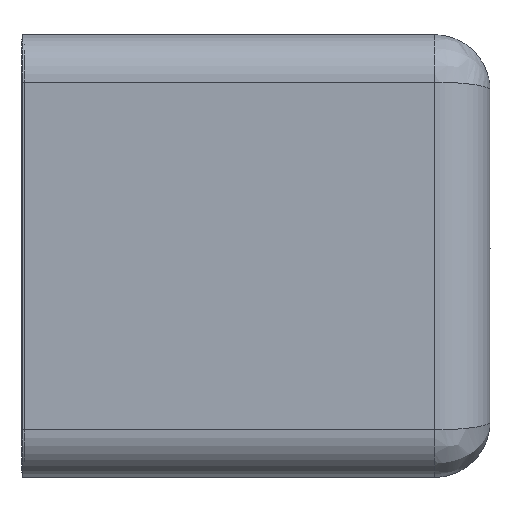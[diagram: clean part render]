
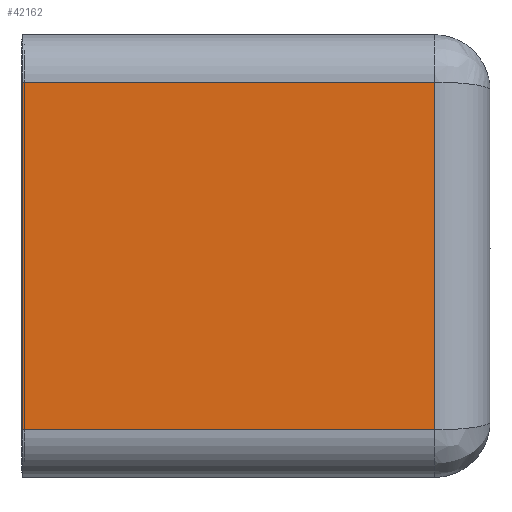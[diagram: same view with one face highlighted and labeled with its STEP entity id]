
A CAD part, left-side view. The second image highlights one B-rep face of the part: STEP entity #42162.
In plain terms, the highlighted planar face has unit normal (-1, 0, 0).
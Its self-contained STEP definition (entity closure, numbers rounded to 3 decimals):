
#1747 = ORIENTED_EDGE ( 'NONE', *, *, #20457, .F. ) ;
#2474 = VERTEX_POINT ( 'NONE', #16904 ) ;
#3076 = DIRECTION ( 'NONE',  ( -1., 0., 0. ) ) ;
#3526 = VERTEX_POINT ( 'NONE', #43556 ) ;
#7423 = DIRECTION ( 'NONE',  ( 0., -1., 0. ) ) ;
#9885 = ORIENTED_EDGE ( 'NONE', *, *, #14859, .T. ) ;
#9946 = ORIENTED_EDGE ( 'NONE', *, *, #14801, .T. ) ;
#10945 = LINE ( 'NONE', #52230, #37600 ) ;
#14082 = VECTOR ( 'NONE', #16269, 39.37 ) ;
#14801 = EDGE_CURVE ( 'NONE', #51627, #39299, #36925, .T. ) ;
#14859 = EDGE_CURVE ( 'NONE', #3526, #2474, #25746, .T. ) ;
#16269 = DIRECTION ( 'NONE',  ( 0., 0., -1. ) ) ;
#16904 = CARTESIAN_POINT ( 'NONE',  ( -5.748, -7.239, 3.138 ) ) ;
#17195 = CARTESIAN_POINT ( 'NONE',  ( -5.748, 0.25, 3.138 ) ) ;
#20130 = ORIENTED_EDGE ( 'NONE', *, *, #47390, .T. ) ;
#20457 = EDGE_CURVE ( 'NONE', #51627, #2474, #37059, .T. ) ;
#25746 = LINE ( 'NONE', #33899, #27136 ) ;
#27136 = VECTOR ( 'NONE', #42061, 39.37 ) ;
#33899 = CARTESIAN_POINT ( 'NONE',  ( -5.748, -7.239, 3.138 ) ) ;
#35362 = PLANE ( 'NONE',  #41219 ) ;
#36925 = LINE ( 'NONE', #53483, #14082 ) ;
#36938 = EDGE_LOOP ( 'NONE', ( #20130, #9885, #1747, #9946 ) ) ;
#37059 = LINE ( 'NONE', #17195, #49805 ) ;
#37600 = VECTOR ( 'NONE', #7423, 39.37 ) ;
#39299 = VERTEX_POINT ( 'NONE', #40545 ) ;
#40251 = FACE_OUTER_BOUND ( 'NONE', #36938, .T. ) ;
#40545 = CARTESIAN_POINT ( 'NONE',  ( -5.748, 0.215, -3.138 ) ) ;
#41219 = AXIS2_PLACEMENT_3D ( 'NONE', #43238, #3076, #52748 ) ;
#42061 = DIRECTION ( 'NONE',  ( 0., 0., 1. ) ) ;
#42162 = ADVANCED_FACE ( 'NONE', ( #40251 ), #35362, .T. ) ;
#43238 = CARTESIAN_POINT ( 'NONE',  ( -5.748, 0.25, 3.138 ) ) ;
#43556 = CARTESIAN_POINT ( 'NONE',  ( -5.748, -7.239, -3.138 ) ) ;
#45194 = DIRECTION ( 'NONE',  ( 0., -1., 0. ) ) ;
#47390 = EDGE_CURVE ( 'NONE', #39299, #3526, #10945, .T. ) ;
#49805 = VECTOR ( 'NONE', #45194, 39.37 ) ;
#51627 = VERTEX_POINT ( 'NONE', #53096 ) ;
#52230 = CARTESIAN_POINT ( 'NONE',  ( -5.748, 0.25, -3.138 ) ) ;
#52748 = DIRECTION ( 'NONE',  ( 0., 0., 1. ) ) ;
#53096 = CARTESIAN_POINT ( 'NONE',  ( -5.748, 0.215, 3.138 ) ) ;
#53483 = CARTESIAN_POINT ( 'NONE',  ( -5.748, 0.215, -3.985 ) ) ;
